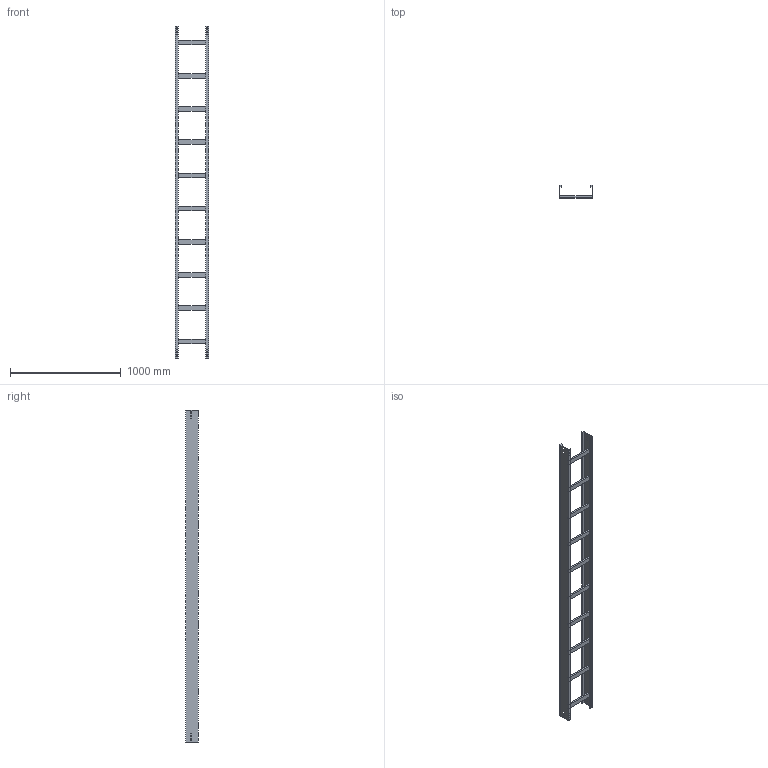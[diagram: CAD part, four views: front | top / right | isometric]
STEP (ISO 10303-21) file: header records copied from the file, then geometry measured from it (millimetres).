
FILE_DESCRIPTION (( 'STEP AP214' ), '1' );
FILE_NAME ('01B3J300.step', '2025-02-21T16:00:13', ( '' ), ( '' ), 'SwSTEP 2.0', 'SolidWorks 2023', '' );
FILE_SCHEMA (( 'AUTOMOTIVE_DESIGN' ));
Length unit declared in the file: millimetre
Products named in the file (3): TRAVERSINO_300; LONGH.H112.5; 01B3J300
Assembly tree (12 placements, depth 2):
  01B3J300
    LONGH.H112.5  x2
    TRAVERSINO_300  x10
Bounding box: 300 x 112.5 x 3000 mm (x, y, z)
Volume: 5194672 mm3; surface area: 2239156 mm2
Topology: 12 solids, 12 shells, 144 faces, 360 edges, 240 vertices
Faces by surface type: plane 144
Entity records: 1696 total; most frequent: CARTESIAN_POINT 283, ORIENTED_EDGE 264, DIRECTION 258, EDGE_CURVE 132, LINE 132, VECTOR 132, VERTEX_POINT 88, EDGE_LOOP 64
